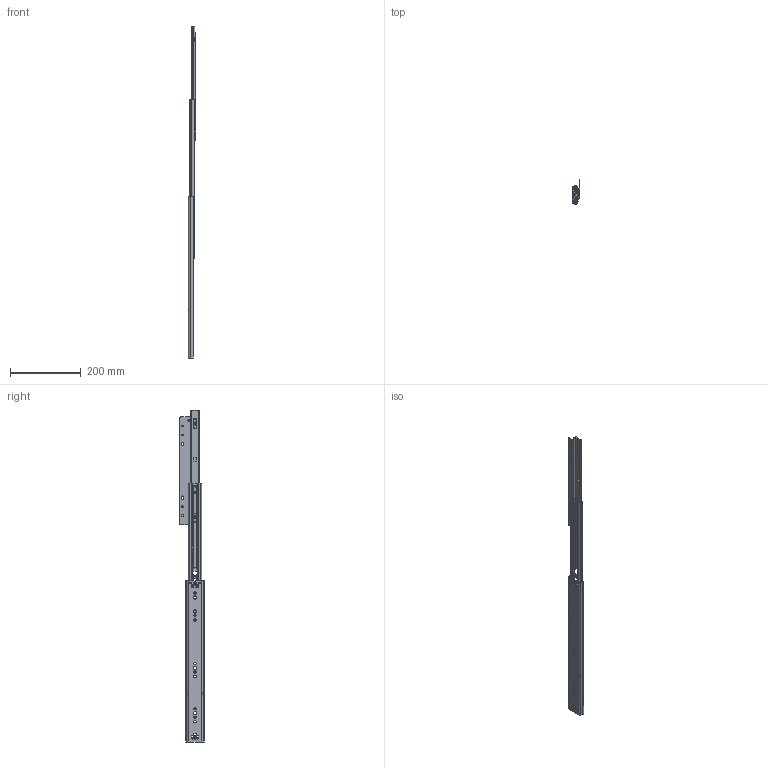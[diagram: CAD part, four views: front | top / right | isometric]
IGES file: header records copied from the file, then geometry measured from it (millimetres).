
Global section: file name: No Iges File Name specified; native system: Autodesk Inventor 2012; preprocessor: AutoDesk Inventor Iges Exporter R2012; author: HV83751; date: 20130708.084948; units: inch
Bounding box: 22.61 x 70.18 x 940.26 mm (x, y, z)
Surface area: 218018 mm2
Topology: 6 solids, 27 shells, 1501 faces, 4439 edges, 2861 vertices
Faces by surface type: plane 761, revolution 386, cylinder 303, bspline 42, torus 9
